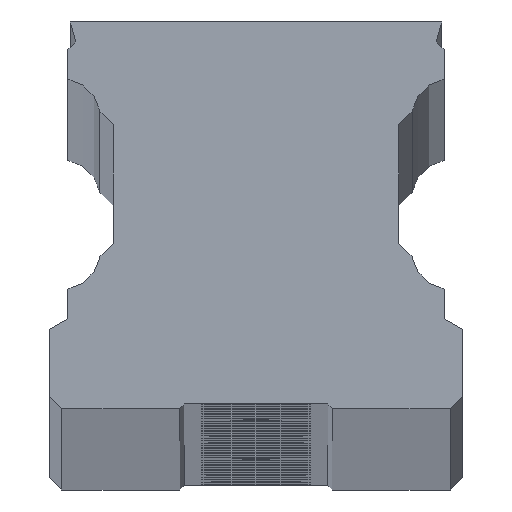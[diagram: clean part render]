
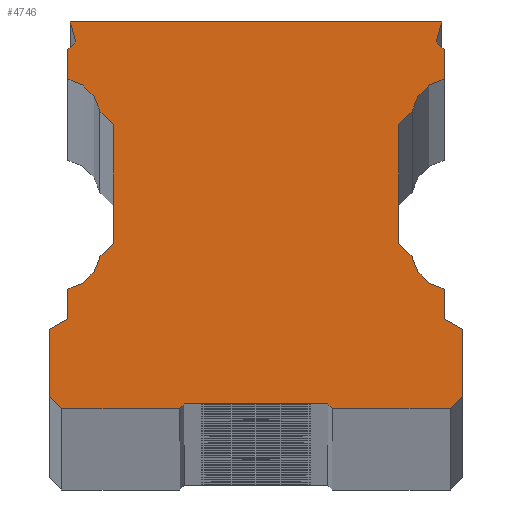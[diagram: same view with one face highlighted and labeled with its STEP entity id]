
A CAD part, top view. The second image highlights one B-rep face of the part: STEP entity #4746.
In plain terms, the highlighted planar face has unit normal (0, 0, 1).
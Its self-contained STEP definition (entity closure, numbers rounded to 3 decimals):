
#667=DIRECTION('',(-0.707,0.707,0.));
#668=VECTOR('',#667,1.414);
#669=CARTESIAN_POINT('',(-16.,-18.5,1918.));
#670=LINE('',#669,#668);
#691=CARTESIAN_POINT('',(-16.046,-5.454,1918.));
#692=DIRECTION('',(0.,0.,-1.));
#693=DIRECTION('',(0.986,-0.169,0.));
#694=AXIS2_PLACEMENT_3D('',#691,#692,#693);
#701=DIRECTION('',(-0.707,-0.707,0.));
#702=VECTOR('',#701,0.566);
#703=CARTESIAN_POINT('',(-5.9,-18.1,1918.));
#704=LINE('',#703,#702);
#705=DIRECTION('',(1.,0.,0.));
#706=VECTOR('',#705,9.7);
#707=CARTESIAN_POINT('',(-16.,-18.5,1918.));
#708=LINE('',#707,#706);
#709=DIRECTION('',(0.,-1.,0.));
#710=VECTOR('',#709,5.534);
#711=CARTESIAN_POINT('',(-17.,-11.966,1918.));
#712=LINE('',#711,#710);
#713=DIRECTION('',(0.866,0.5,0.));
#714=VECTOR('',#713,1.732);
#715=CARTESIAN_POINT('',(-17.,-11.966,1918.));
#716=LINE('',#715,#714);
#717=DIRECTION('',(0.,-1.,0.));
#718=VECTOR('',#717,2.452);
#719=CARTESIAN_POINT('',(-15.5,-8.648,1918.));
#720=LINE('',#719,#718);
#721=DIRECTION('',(0.707,0.707,0.));
#722=VECTOR('',#721,1.56);
#723=CARTESIAN_POINT('',(-12.853,-6.003,1918.));
#724=LINE('',#723,#722);
#725=DIRECTION('',(0.,1.,0.));
#726=VECTOR('',#725,9.8);
#727=CARTESIAN_POINT('',(-11.75,-4.9,1918.));
#728=LINE('',#727,#726);
#729=DIRECTION('',(-0.707,0.707,0.));
#730=VECTOR('',#729,1.56);
#731=CARTESIAN_POINT('',(-11.75,4.9,1918.));
#732=LINE('',#731,#730);
#733=DIRECTION('',(0.,-1.,0.));
#734=VECTOR('',#733,2.412);
#735=CARTESIAN_POINT('',(-15.5,11.06,1918.));
#736=LINE('',#735,#734);
#737=DIRECTION('',(0.707,0.707,0.));
#738=VECTOR('',#737,0.919);
#739=CARTESIAN_POINT('',(-15.5,11.06,1918.));
#740=LINE('',#739,#738);
#741=DIRECTION('',(-0.259,0.966,0.));
#742=VECTOR('',#741,1.698);
#743=CARTESIAN_POINT('',(-14.85,11.71,1918.));
#744=LINE('',#743,#742);
#745=DIRECTION('',(-1.,0.,0.));
#746=VECTOR('',#745,30.579);
#747=CARTESIAN_POINT('',(15.289,13.35,1918.));
#748=LINE('',#747,#746);
#749=DIRECTION('',(-0.259,-0.966,0.));
#750=VECTOR('',#749,1.698);
#751=CARTESIAN_POINT('',(15.289,13.35,1918.));
#752=LINE('',#751,#750);
#753=DIRECTION('',(0.707,-0.707,0.));
#754=VECTOR('',#753,0.919);
#755=CARTESIAN_POINT('',(14.85,11.71,1918.));
#756=LINE('',#755,#754);
#757=DIRECTION('',(0.,-1.,0.));
#758=VECTOR('',#757,2.412);
#759=CARTESIAN_POINT('',(15.5,11.06,1918.));
#760=LINE('',#759,#758);
#761=DIRECTION('',(-0.707,-0.707,0.));
#762=VECTOR('',#761,1.56);
#763=CARTESIAN_POINT('',(12.853,6.003,1918.));
#764=LINE('',#763,#762);
#765=DIRECTION('',(0.,-1.,0.));
#766=VECTOR('',#765,9.8);
#767=CARTESIAN_POINT('',(11.75,4.9,1918.));
#768=LINE('',#767,#766);
#769=DIRECTION('',(0.707,-0.707,0.));
#770=VECTOR('',#769,1.56);
#771=CARTESIAN_POINT('',(11.75,-4.9,1918.));
#772=LINE('',#771,#770);
#773=DIRECTION('',(0.,-1.,0.));
#774=VECTOR('',#773,2.452);
#775=CARTESIAN_POINT('',(15.5,-8.648,1918.));
#776=LINE('',#775,#774);
#777=DIRECTION('',(0.866,-0.5,0.));
#778=VECTOR('',#777,1.732);
#779=CARTESIAN_POINT('',(15.5,-11.1,1918.));
#780=LINE('',#779,#778);
#781=DIRECTION('',(0.,1.,0.));
#782=VECTOR('',#781,5.534);
#783=CARTESIAN_POINT('',(17.,-17.5,1918.));
#784=LINE('',#783,#782);
#785=DIRECTION('',(1.,0.,0.));
#786=VECTOR('',#785,9.7);
#787=CARTESIAN_POINT('',(6.3,-18.5,1918.));
#788=LINE('',#787,#786);
#789=DIRECTION('',(-0.707,0.707,0.));
#790=VECTOR('',#789,0.566);
#791=CARTESIAN_POINT('',(6.3,-18.5,1918.));
#792=LINE('',#791,#790);
#793=DIRECTION('',(-1.,0.,0.));
#794=VECTOR('',#793,11.8);
#795=CARTESIAN_POINT('',(5.9,-18.1,1918.));
#796=LINE('',#795,#794);
#813=CARTESIAN_POINT('',(-16.046,5.454,1918.));
#814=DIRECTION('',(0.,0.,-1.));
#815=DIRECTION('',(0.169,0.986,0.));
#816=AXIS2_PLACEMENT_3D('',#813,#814,#815);
#1336=CARTESIAN_POINT('',(16.046,-5.454,1918.));
#1337=DIRECTION('',(0.,0.,-1.));
#1338=DIRECTION('',(-0.169,-0.986,0.));
#1339=AXIS2_PLACEMENT_3D('',#1336,#1337,#1338);
#1357=CARTESIAN_POINT('',(16.046,5.454,1918.));
#1358=DIRECTION('',(0.,0.,-1.));
#1359=DIRECTION('',(-0.986,0.169,0.));
#1360=AXIS2_PLACEMENT_3D('',#1357,#1358,#1359);
#1387=DIRECTION('',(-0.707,-0.707,0.));
#1388=VECTOR('',#1387,1.414);
#1389=CARTESIAN_POINT('',(17.,-17.5,1918.));
#1390=LINE('',#1389,#1388);
#3611=CARTESIAN_POINT('',(15.5,-11.1,1918.));
#3612=CARTESIAN_POINT('',(17.,-11.966,1918.));
#3613=VERTEX_POINT('',#3611);
#3614=VERTEX_POINT('',#3612);
#3615=CARTESIAN_POINT('',(-17.,-11.966,1918.));
#3616=CARTESIAN_POINT('',(-15.5,-11.1,1918.));
#3617=VERTEX_POINT('',#3615);
#3618=VERTEX_POINT('',#3616);
#3620=CARTESIAN_POINT('',(15.5,8.648,1918.));
#3622=VERTEX_POINT('',#3620);
#3624=CARTESIAN_POINT('',(15.5,-8.648,1918.));
#3626=VERTEX_POINT('',#3624);
#3628=CARTESIAN_POINT('',(-15.5,8.648,1918.));
#3630=VERTEX_POINT('',#3628);
#3632=CARTESIAN_POINT('',(-15.5,-8.648,1918.));
#3634=VERTEX_POINT('',#3632);
#3643=CARTESIAN_POINT('',(11.75,4.9,1918.));
#3644=CARTESIAN_POINT('',(11.75,-4.9,1918.));
#3645=VERTEX_POINT('',#3643);
#3646=VERTEX_POINT('',#3644);
#3647=CARTESIAN_POINT('',(12.853,-6.003,1918.));
#3648=VERTEX_POINT('',#3647);
#3649=CARTESIAN_POINT('',(12.853,6.003,1918.));
#3650=VERTEX_POINT('',#3649);
#3651=CARTESIAN_POINT('',(-12.853,6.003,1918.));
#3652=VERTEX_POINT('',#3651);
#3655=CARTESIAN_POINT('',(-12.853,-6.003,1918.));
#3656=VERTEX_POINT('',#3655);
#3671=CARTESIAN_POINT('',(15.289,13.35,1918.));
#3672=CARTESIAN_POINT('',(14.85,11.71,1918.));
#3673=VERTEX_POINT('',#3671);
#3674=VERTEX_POINT('',#3672);
#3675=CARTESIAN_POINT('',(15.5,11.06,1918.));
#3676=VERTEX_POINT('',#3675);
#3677=CARTESIAN_POINT('',(-15.5,11.06,1918.));
#3678=CARTESIAN_POINT('',(-14.85,11.71,1918.));
#3679=VERTEX_POINT('',#3677);
#3680=VERTEX_POINT('',#3678);
#3681=CARTESIAN_POINT('',(-15.289,13.35,1918.));
#3682=VERTEX_POINT('',#3681);
#3684=CARTESIAN_POINT('',(17.,-17.5,1918.));
#3686=VERTEX_POINT('',#3684);
#3688=CARTESIAN_POINT('',(16.,-18.5,1918.));
#3690=VERTEX_POINT('',#3688);
#3692=CARTESIAN_POINT('',(-16.,-18.5,1918.));
#3694=VERTEX_POINT('',#3692);
#3696=CARTESIAN_POINT('',(-17.,-17.5,1918.));
#3698=VERTEX_POINT('',#3696);
#3707=CARTESIAN_POINT('',(-5.9,-18.1,1918.));
#3708=CARTESIAN_POINT('',(-6.3,-18.5,1918.));
#3709=VERTEX_POINT('',#3707);
#3710=VERTEX_POINT('',#3708);
#3711=CARTESIAN_POINT('',(6.3,-18.5,1918.));
#3712=CARTESIAN_POINT('',(5.9,-18.1,1918.));
#3713=VERTEX_POINT('',#3711);
#3714=VERTEX_POINT('',#3712);
#3735=CARTESIAN_POINT('',(-11.75,-4.9,1918.));
#3736=VERTEX_POINT('',#3735);
#3737=CARTESIAN_POINT('',(-11.75,4.9,1918.));
#3738=VERTEX_POINT('',#3737);
#4688=CARTESIAN_POINT('',(0.,0.,1918.));
#4689=DIRECTION('',(0.,0.,1.));
#4690=DIRECTION('',(1.,0.,0.));
#4691=AXIS2_PLACEMENT_3D('',#4688,#4689,#4690);
#4692=PLANE('',#4691);
#4693=ORIENTED_EDGE('',*,*,#4567,.T.);
#4694=ORIENTED_EDGE('',*,*,#4583,.F.);
#4695=ORIENTED_EDGE('',*,*,#4612,.T.);
#4696=ORIENTED_EDGE('',*,*,#4624,.F.);
#4697=ORIENTED_EDGE('',*,*,#4639,.T.);
#4698=ORIENTED_EDGE('',*,*,#4652,.F.);
#4699=ORIENTED_EDGE('',*,*,#4679,.F.);
#4701=ORIENTED_EDGE('',*,*,#4700,.T.);
#4703=ORIENTED_EDGE('',*,*,#4702,.T.);
#4705=ORIENTED_EDGE('',*,*,#4704,.T.);
#4707=ORIENTED_EDGE('',*,*,#4706,.F.);
#4708=ORIENTED_EDGE('',*,*,#4666,.F.);
#4710=ORIENTED_EDGE('',*,*,#4709,.T.);
#4712=ORIENTED_EDGE('',*,*,#4711,.T.);
#4714=ORIENTED_EDGE('',*,*,#4713,.F.);
#4716=ORIENTED_EDGE('',*,*,#4715,.T.);
#4718=ORIENTED_EDGE('',*,*,#4717,.T.);
#4720=ORIENTED_EDGE('',*,*,#4719,.T.);
#4722=ORIENTED_EDGE('',*,*,#4721,.F.);
#4724=ORIENTED_EDGE('',*,*,#4723,.T.);
#4726=ORIENTED_EDGE('',*,*,#4725,.T.);
#4728=ORIENTED_EDGE('',*,*,#4727,.T.);
#4730=ORIENTED_EDGE('',*,*,#4729,.F.);
#4732=ORIENTED_EDGE('',*,*,#4731,.T.);
#4734=ORIENTED_EDGE('',*,*,#4733,.T.);
#4736=ORIENTED_EDGE('',*,*,#4735,.F.);
#4738=ORIENTED_EDGE('',*,*,#4737,.T.);
#4739=ORIENTED_EDGE('',*,*,#4595,.F.);
#4741=ORIENTED_EDGE('',*,*,#4740,.T.);
#4743=ORIENTED_EDGE('',*,*,#4742,.T.);
#4744=EDGE_LOOP('',(#4693,#4694,#4695,#4696,#4697,#4698,#4699,#4701,#4703,#4705,
#4707,#4708,#4710,#4712,#4714,#4716,#4718,#4720,#4722,#4724,#4726,#4728,#4730,
#4732,#4734,#4736,#4738,#4739,#4741,#4743));
#4745=FACE_OUTER_BOUND('',#4744,.F.);
#4746=ADVANCED_FACE('',(#4745),#4692,.T.);
#695=CIRCLE('',#694,3.24);
#817=CIRCLE('',#816,3.24);
#1340=CIRCLE('',#1339,3.24);
#1361=CIRCLE('',#1360,3.24);
#4567=EDGE_CURVE('',#3709,#3710,#704,.T.);
#4583=EDGE_CURVE('',#3694,#3710,#708,.T.);
#4595=EDGE_CURVE('',#3713,#3690,#788,.T.);
#4612=EDGE_CURVE('',#3694,#3698,#670,.T.);
#4624=EDGE_CURVE('',#3617,#3698,#712,.T.);
#4639=EDGE_CURVE('',#3617,#3618,#716,.T.);
#4652=EDGE_CURVE('',#3634,#3618,#720,.T.);
#4666=EDGE_CURVE('',#3679,#3630,#736,.T.);
#4679=EDGE_CURVE('',#3656,#3634,#695,.T.);
#4700=EDGE_CURVE('',#3656,#3736,#724,.T.);
#4702=EDGE_CURVE('',#3736,#3738,#728,.T.);
#4704=EDGE_CURVE('',#3738,#3652,#732,.T.);
#4706=EDGE_CURVE('',#3630,#3652,#817,.T.);
#4709=EDGE_CURVE('',#3679,#3680,#740,.T.);
#4711=EDGE_CURVE('',#3680,#3682,#744,.T.);
#4713=EDGE_CURVE('',#3673,#3682,#748,.T.);
#4715=EDGE_CURVE('',#3673,#3674,#752,.T.);
#4717=EDGE_CURVE('',#3674,#3676,#756,.T.);
#4719=EDGE_CURVE('',#3676,#3622,#760,.T.);
#4721=EDGE_CURVE('',#3650,#3622,#1361,.T.);
#4723=EDGE_CURVE('',#3650,#3645,#764,.T.);
#4725=EDGE_CURVE('',#3645,#3646,#768,.T.);
#4727=EDGE_CURVE('',#3646,#3648,#772,.T.);
#4729=EDGE_CURVE('',#3626,#3648,#1340,.T.);
#4731=EDGE_CURVE('',#3626,#3613,#776,.T.);
#4733=EDGE_CURVE('',#3613,#3614,#780,.T.);
#4735=EDGE_CURVE('',#3686,#3614,#784,.T.);
#4737=EDGE_CURVE('',#3686,#3690,#1390,.T.);
#4740=EDGE_CURVE('',#3713,#3714,#792,.T.);
#4742=EDGE_CURVE('',#3714,#3709,#796,.T.);
